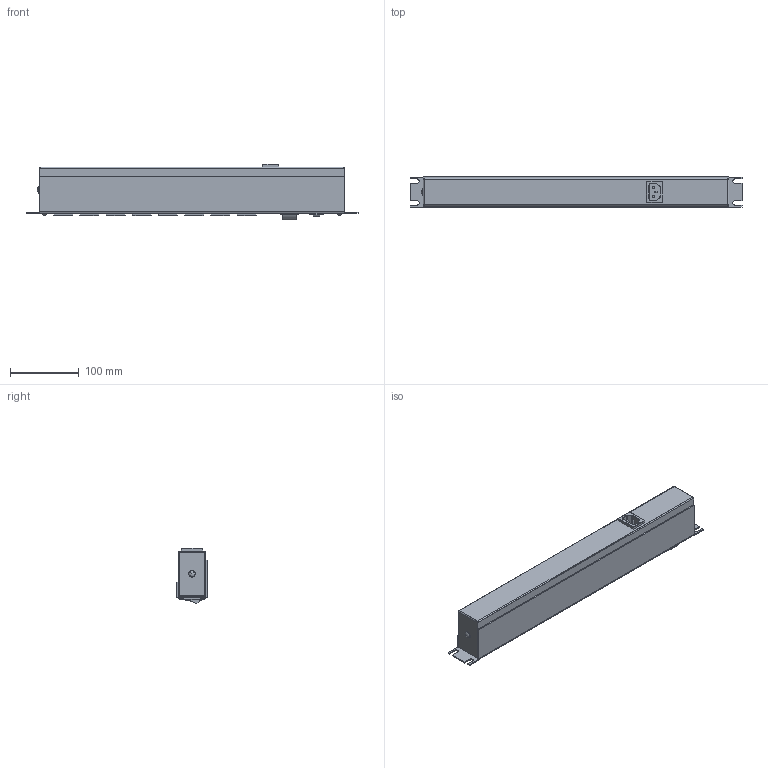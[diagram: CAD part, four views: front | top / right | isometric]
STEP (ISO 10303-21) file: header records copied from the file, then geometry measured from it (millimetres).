
FILE_DESCRIPTION(/* description */ (''),/* implementation_level */ '2;1');
FILE_NAME(/* name */ 'E:\Manufacturing\drawings\Web Drawings\POWER BARS\1582DP & 1583DP Series\STEP''s\1582H8E1BKDP.stp',/* time_stamp */ '2016-06-07T15:46:41-04:00',/* author */ ('tfoster'),/* organization */ (''),/* preprocessor_version */ 'ST-DEVELOPER v16.1',/* originating_system */ 'Autodesk Inventor 2016',/* authorisation */ '');
FILE_SCHEMA (('AUTOMOTIVE_DESIGN { 1 0 10303 214 3 1 1 }'));
Products named in the file (11): 1582 Front plate; 1582 Back Plate; #30296; round head  8-32 x 0.5 screw; 230 V Receptacle; DP switch base; DP Switch Top; DP switch; Reset Switch; Plug Inlet; 1582H8E1BKDP
Assembly tree (21 placements, depth 3):
  1582H8E1BKDP
    1582 Front plate
    1582 Back Plate
    #30296  x4
    round head  8-32 x 0.5 screw
    230 V Receptacle  x8
    DP switch
      DP switch base
      DP Switch Top
    Reset Switch  x2
    Plug Inlet
Bounding box: 482.6 x 43.64 x 80.29 mm (x, y, z)
Volume: 244394.6 mm3; surface area: 294573.4 mm2
Topology: 20 solids, 20 shells, 1653 faces, 4403 edges, 2820 vertices
Faces by surface type: plane 960, cylinder 466, bspline 87, torus 80, sphere 41, cone 19
Full cylindrical faces by diameter (mm): 1.905 x4, 2 x4, 2.5 x4, 2.997 x4, 3 x1, 4 x1, 4.801 x1, 5 x1, 5.563 x4
Entity records: 30096 total; most frequent: CARTESIAN_POINT 9167, ORIENTED_EDGE 4370, DIRECTION 3989, EDGE_CURVE 2185, LINE 1577, VECTOR 1577, VERTEX_POINT 1429, AXIS2_PLACEMENT_3D 1206
